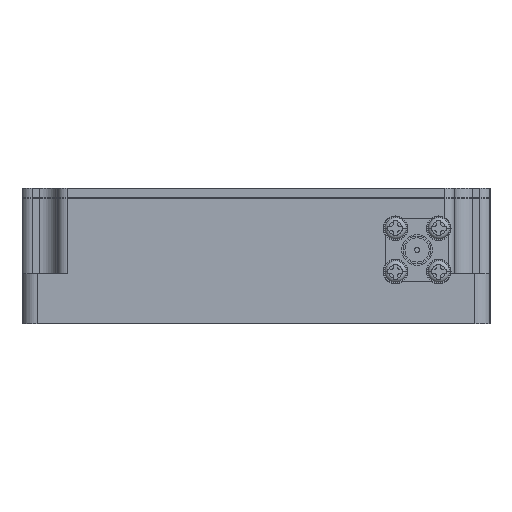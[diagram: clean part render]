
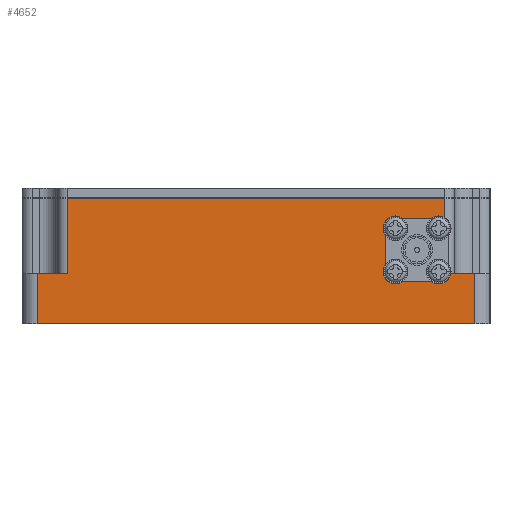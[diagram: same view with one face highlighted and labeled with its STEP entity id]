
A CAD part, left-side view. The second image highlights one B-rep face of the part: STEP entity #4652.
In plain terms, the highlighted planar face has unit normal (-1, 0, 0).
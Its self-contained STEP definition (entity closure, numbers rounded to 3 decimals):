
#28 = CARTESIAN_POINT ( 'NONE',  ( -115., -43.5, 22. ) ) ;
#151 = DIRECTION ( 'NONE',  ( 0., 0., -1. ) ) ;
#606 = EDGE_LOOP ( 'NONE', ( #8218, #24400 ) ) ;
#671 = EDGE_CURVE ( 'NONE', #3298, #8691, #15700, .T. ) ;
#1181 = CARTESIAN_POINT ( 'NONE',  ( -115., -37.5, 20. ) ) ;
#1697 = DIRECTION ( 'NONE',  ( 0., -1., 0. ) ) ;
#1907 = LINE ( 'NONE', #10056, #25448 ) ;
#2186 = CARTESIAN_POINT ( 'NONE',  ( -115., -32., 9.7 ) ) ;
#2250 = DIRECTION ( 'NONE',  ( 0., 0., 1. ) ) ;
#3298 = VERTEX_POINT ( 'NONE', #12731 ) ;
#3657 = AXIS2_PLACEMENT_3D ( 'NONE', #2186, #4079, #18489 ) ;
#3683 = ORIENTED_EDGE ( 'NONE', *, *, #671, .F. ) ;
#3703 = LINE ( 'NONE', #11834, #13084 ) ;
#3900 = LINE ( 'NONE', #18717, #25292 ) ;
#4056 = VERTEX_POINT ( 'NONE', #8750 ) ;
#4079 = DIRECTION ( 'NONE',  ( -1., 0., 0. ) ) ;
#4119 = EDGE_CURVE ( 'NONE', #22513, #3298, #13158, .T. ) ;
#4175 = FACE_BOUND ( 'NONE', #606, .T. ) ;
#4430 = CARTESIAN_POINT ( 'NONE',  ( -115., 43.5, -5. ) ) ;
#4652 = ADVANCED_FACE ( 'NONE', ( #4175, #24599 ), #10295, .F. ) ;
#5442 = EDGE_CURVE ( 'NONE', #22543, #22513, #3703, .T. ) ;
#6326 = CARTESIAN_POINT ( 'NONE',  ( -115., 37.5, 5. ) ) ;
#6538 = DIRECTION ( 'NONE',  ( -1., 0., 0. ) ) ;
#7717 = CARTESIAN_POINT ( 'NONE',  ( -115., -32., 11.8 ) ) ;
#8091 = CARTESIAN_POINT ( 'NONE',  ( -115., -43.5, 5. ) ) ;
#8218 = ORIENTED_EDGE ( 'NONE', *, *, #11178, .F. ) ;
#8571 = DIRECTION ( 'NONE',  ( 0., 1., 0. ) ) ;
#8691 = VERTEX_POINT ( 'NONE', #4430 ) ;
#8750 = CARTESIAN_POINT ( 'NONE',  ( -115., 37.5, 20. ) ) ;
#8761 = ORIENTED_EDGE ( 'NONE', *, *, #19535, .T. ) ;
#8796 = VECTOR ( 'NONE', #15171, 1000. ) ;
#9076 = VECTOR ( 'NONE', #8571, 1000. ) ;
#9644 = ORIENTED_EDGE ( 'NONE', *, *, #5442, .F. ) ;
#9733 = VERTEX_POINT ( 'NONE', #14072 ) ;
#10056 = CARTESIAN_POINT ( 'NONE',  ( -115., -37.5, 22. ) ) ;
#10170 = CARTESIAN_POINT ( 'NONE',  ( -115., -43.5, 5. ) ) ;
#10295 = PLANE ( 'NONE',  #12070 ) ;
#10305 = ORIENTED_EDGE ( 'NONE', *, *, #25077, .F. ) ;
#10659 = ORIENTED_EDGE ( 'NONE', *, *, #19697, .T. ) ;
#11178 = EDGE_CURVE ( 'NONE', #16496, #16210, #18581, .T. ) ;
#11212 = LINE ( 'NONE', #17129, #9076 ) ;
#11406 = EDGE_CURVE ( 'NONE', #4056, #16578, #23549, .T. ) ;
#11469 = EDGE_CURVE ( 'NONE', #22543, #22066, #1907, .T. ) ;
#11834 = CARTESIAN_POINT ( 'NONE',  ( -115., -43.5, 5. ) ) ;
#11982 = EDGE_CURVE ( 'NONE', #16210, #16496, #16937, .T. ) ;
#12070 = AXIS2_PLACEMENT_3D ( 'NONE', #28, #12308, #151 ) ;
#12308 = DIRECTION ( 'NONE',  ( 1., 0., 0. ) ) ;
#12731 = CARTESIAN_POINT ( 'NONE',  ( -115., -43.5, -5. ) ) ;
#12783 = ORIENTED_EDGE ( 'NONE', *, *, #4119, .F. ) ;
#13084 = VECTOR ( 'NONE', #1697, 1000. ) ;
#13158 = LINE ( 'NONE', #17443, #8796 ) ;
#13496 = AXIS2_PLACEMENT_3D ( 'NONE', #24572, #6538, #2250 ) ;
#13733 = ORIENTED_EDGE ( 'NONE', *, *, #11469, .T. ) ;
#13781 = LINE ( 'NONE', #10170, #23726 ) ;
#14072 = CARTESIAN_POINT ( 'NONE',  ( -115., 43.5, 5. ) ) ;
#14460 = DIRECTION ( 'NONE',  ( 0., 0., 1. ) ) ;
#15171 = DIRECTION ( 'NONE',  ( 0., 0., -1. ) ) ;
#15700 = LINE ( 'NONE', #23820, #23072 ) ;
#16210 = VERTEX_POINT ( 'NONE', #19775 ) ;
#16496 = VERTEX_POINT ( 'NONE', #7717 ) ;
#16578 = VERTEX_POINT ( 'NONE', #6326 ) ;
#16601 = DIRECTION ( 'NONE',  ( 0., 0., -1. ) ) ;
#16937 = CIRCLE ( 'NONE', #13496, 2.1 ) ;
#17129 = CARTESIAN_POINT ( 'NONE',  ( -115., -43.5, 20. ) ) ;
#17443 = CARTESIAN_POINT ( 'NONE',  ( -115., -43.5, 22. ) ) ;
#17840 = CARTESIAN_POINT ( 'NONE',  ( -115., -37.5, 5. ) ) ;
#18046 = DIRECTION ( 'NONE',  ( 0., -1., 0. ) ) ;
#18489 = DIRECTION ( 'NONE',  ( 0., 0., 1. ) ) ;
#18581 = CIRCLE ( 'NONE', #3657, 2.1 ) ;
#18717 = CARTESIAN_POINT ( 'NONE',  ( -115., 43.5, 22. ) ) ;
#19535 = EDGE_CURVE ( 'NONE', #9733, #8691, #3900, .T. ) ;
#19697 = EDGE_CURVE ( 'NONE', #22066, #4056, #11212, .T. ) ;
#19775 = CARTESIAN_POINT ( 'NONE',  ( -115., -32., 7.6 ) ) ;
#21169 = VECTOR ( 'NONE', #23682, 1000. ) ;
#21544 = CARTESIAN_POINT ( 'NONE',  ( -115., 37.5, 22. ) ) ;
#22066 = VERTEX_POINT ( 'NONE', #1181 ) ;
#22513 = VERTEX_POINT ( 'NONE', #8091 ) ;
#22543 = VERTEX_POINT ( 'NONE', #17840 ) ;
#23072 = VECTOR ( 'NONE', #25305, 1000. ) ;
#23549 = LINE ( 'NONE', #21544, #21169 ) ;
#23682 = DIRECTION ( 'NONE',  ( 0., 0., -1. ) ) ;
#23726 = VECTOR ( 'NONE', #18046, 1000. ) ;
#23820 = CARTESIAN_POINT ( 'NONE',  ( -115., -43.5, -5. ) ) ;
#24400 = ORIENTED_EDGE ( 'NONE', *, *, #11982, .F. ) ;
#24572 = CARTESIAN_POINT ( 'NONE',  ( -115., -32., 9.7 ) ) ;
#24599 = FACE_OUTER_BOUND ( 'NONE', #25434, .T. ) ;
#25077 = EDGE_CURVE ( 'NONE', #9733, #16578, #13781, .T. ) ;
#25233 = ORIENTED_EDGE ( 'NONE', *, *, #11406, .T. ) ;
#25292 = VECTOR ( 'NONE', #16601, 1000. ) ;
#25305 = DIRECTION ( 'NONE',  ( 0., 1., 0. ) ) ;
#25434 = EDGE_LOOP ( 'NONE', ( #13733, #10659, #25233, #10305, #8761, #3683, #12783, #9644 ) ) ;
#25448 = VECTOR ( 'NONE', #14460, 1000. ) ;
